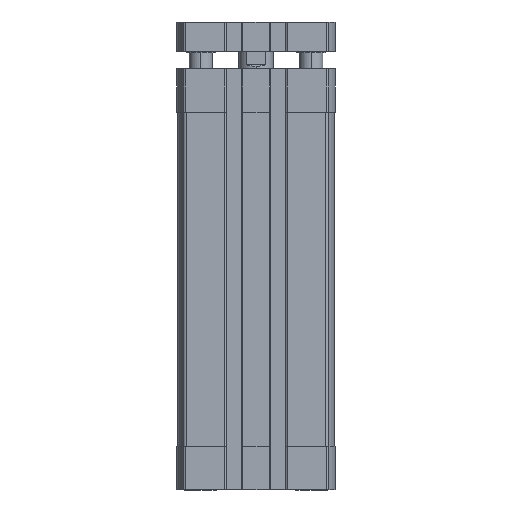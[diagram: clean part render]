
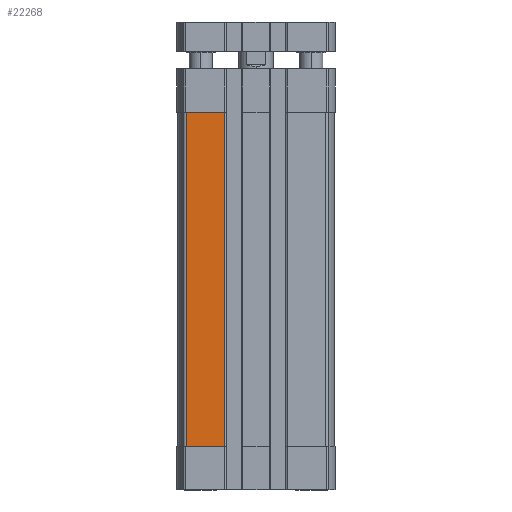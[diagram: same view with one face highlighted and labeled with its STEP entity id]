
A CAD part, front view. The second image highlights one B-rep face of the part: STEP entity #22268.
In plain terms, the highlighted planar face has unit normal (0, -1, 0) as drawn and (-1, 0, 0) by its records, which use the part's own axes.
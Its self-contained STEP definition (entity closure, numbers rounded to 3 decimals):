
#51 = LINE ( 'NONE', #22048, #8485 ) ;
#453 = ORIENTED_EDGE ( 'NONE', *, *, #8692, .T. ) ;
#1985 = LINE ( 'NONE', #15217, #16199 ) ;
#2244 = LINE ( 'NONE', #8946, #18537 ) ;
#2483 = ORIENTED_EDGE ( 'NONE', *, *, #8355, .T. ) ;
#2751 = DIRECTION ( 'NONE',  ( 0., -1., 0. ) ) ;
#3137 = VERTEX_POINT ( 'NONE', #5248 ) ;
#3205 = DIRECTION ( 'NONE',  ( 0., 1., 0. ) ) ;
#3648 = DIRECTION ( 'NONE',  ( -1., 0., 0. ) ) ;
#4569 = CARTESIAN_POINT ( 'NONE',  ( -27., 10.7, -15. ) ) ;
#5248 = CARTESIAN_POINT ( 'NONE',  ( -27., 24.093, -130. ) ) ;
#7171 = PLANE ( 'NONE',  #13893 ) ;
#7267 = VERTEX_POINT ( 'NONE', #18362 ) ;
#7969 = ORIENTED_EDGE ( 'NONE', *, *, #15038, .T. ) ;
#8355 = EDGE_CURVE ( 'NONE', #10985, #9353, #21022, .T. ) ;
#8485 = VECTOR ( 'NONE', #16726, 1000. ) ;
#8692 = EDGE_CURVE ( 'NONE', #7267, #10985, #51, .T. ) ;
#8946 = CARTESIAN_POINT ( 'NONE',  ( -27., 24.093, -130. ) ) ;
#9353 = VERTEX_POINT ( 'NONE', #20912 ) ;
#10985 = VERTEX_POINT ( 'NONE', #4569 ) ;
#12109 = CARTESIAN_POINT ( 'NONE',  ( -27., 0., -15. ) ) ;
#12518 = EDGE_CURVE ( 'NONE', #9353, #3137, #2244, .T. ) ;
#13259 = FACE_OUTER_BOUND ( 'NONE', #16785, .T. ) ;
#13893 = AXIS2_PLACEMENT_3D ( 'NONE', #14303, #3648, #16103 ) ;
#14303 = CARTESIAN_POINT ( 'NONE',  ( -27., 24.093, -130. ) ) ;
#15038 = EDGE_CURVE ( 'NONE', #3137, #7267, #1985, .T. ) ;
#15117 = ORIENTED_EDGE ( 'NONE', *, *, #12518, .T. ) ;
#15217 = CARTESIAN_POINT ( 'NONE',  ( -27., 24.093, -130. ) ) ;
#16103 = DIRECTION ( 'NONE',  ( 0., 0., 1. ) ) ;
#16199 = VECTOR ( 'NONE', #2751, 1000. ) ;
#16263 = VECTOR ( 'NONE', #3205, 1000. ) ;
#16726 = DIRECTION ( 'NONE',  ( 0., 0., 1. ) ) ;
#16785 = EDGE_LOOP ( 'NONE', ( #7969, #453, #2483, #15117 ) ) ;
#18362 = CARTESIAN_POINT ( 'NONE',  ( -27., 10.7, -130. ) ) ;
#18537 = VECTOR ( 'NONE', #23196, 1000. ) ;
#20912 = CARTESIAN_POINT ( 'NONE',  ( -27., 24.093, -15. ) ) ;
#21022 = LINE ( 'NONE', #12109, #16263 ) ;
#22048 = CARTESIAN_POINT ( 'NONE',  ( -27., 10.7, -130. ) ) ;
#22268 = ADVANCED_FACE ( 'NONE', ( #13259 ), #7171, .T. ) ;
#23196 = DIRECTION ( 'NONE',  ( 0., 0., -1. ) ) ;
